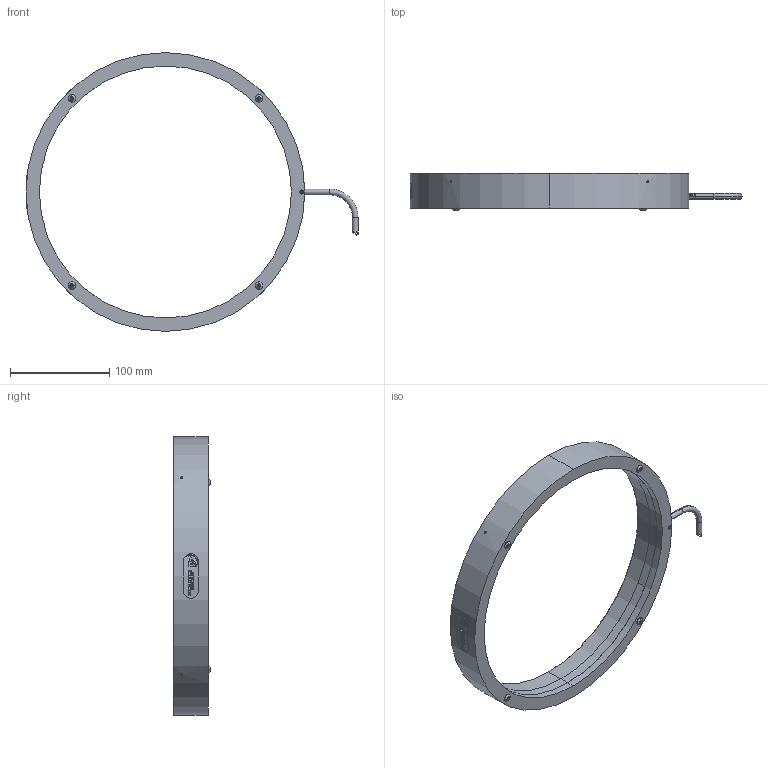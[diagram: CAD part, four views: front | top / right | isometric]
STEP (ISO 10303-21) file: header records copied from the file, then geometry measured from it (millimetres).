
FILE_DESCRIPTION (( 'STEP AP214' ), '1' );
FILE_NAME ('DF196-280_Default.stp', '2021-05-07T18:32:34', ( '' ), ( '' ), 'SwSTEP 2.0', 'SolidWorks 2018', '' );
FILE_SCHEMA (( 'AUTOMOTIVE_DESIGN' ));
Length unit declared in the file: inch
Products named in the file (16): 092407_91375A079; 092630; 15mm Label (DF196-280)_Default<As Machined>; BH-M4x8; 15mm Advanced illumination (RL5064); 092408_TRUNCATED; 092631; 15mm Ai (RL5064); 91375A074_91375A074; 092629; 092627; DF196-280_Default; 092632; 15mm Swish (RL5064)_Default<As Machined>; 092628; 091053 (DF196-280)
Assembly tree (28 placements, depth 3):
  DF196-280_Default
    092627
    092632  x6
    092630  x3
    092628
    092631
    092629
    092407_91375A079
    91375A074_91375A074  x4
    BH-M4x8  x4
    091053 (DF196-280)
      15mm Label (DF196-280)_Default<As Machined>
      15mm Ai (RL5064)
      15mm Swish (RL5064)_Default<As Machined>
      15mm Advanced illumination (RL5064)
    092408_TRUNCATED
Bounding box: 334.65 x 37.15 x 280.99 mm (x, y, z)
Volume: 341117.2 mm3; surface area: 241551.5 mm2
Topology: 58 solids, 58 shells, 1209 faces, 2722 edges, 1618 vertices
Faces by surface type: cylinder 445, plane 344, cone 308, bspline 100, torus 12
Entity records: 28621 total; most frequent: CARTESIAN_POINT 11840, ORIENTED_EDGE 3252, DIRECTION 2849, EDGE_CURVE 1626, AXIS2_PLACEMENT_3D 1052, VERTEX_POINT 990, EDGE_LOOP 764, VECTOR 745
